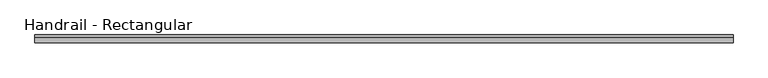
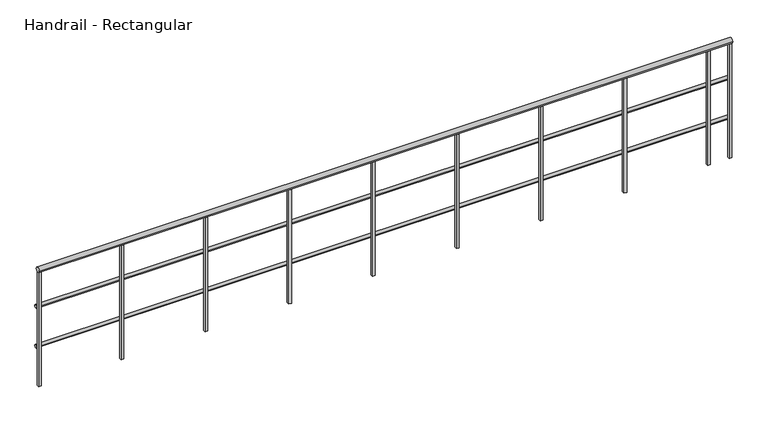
"""IFC4 building model written with IfcOpenShell, lengths in millimetres: railing geometry, Handrail - Rectangular."""

from ifc_helpers import new_model, si_unit, point, frame, frame_2d, origin, place, context, project, spatial, polyline, circle_curve, trimmed, segment, composite_curve, outline, extrude, source, transform, mapped, element, save


def handrail_rectangular_d1ca25f8(model_context):
    return source(origin(), model_context, "Body", "SweptSolid", [
        extrude(outline(composite_curve([segment(trimmed(circle_curve(frame_2d((11970.2316867, 9740.9)), 12.7), [point((11982.9316867, 9740.9))], [point((11957.5316867, 9740.9))], False, "CARTESIAN"), True, "CONTINUOUS"), segment(trimmed(circle_curve(frame_2d((11970.2316867, 9740.9)), 12.7), [point((11957.5316867, 9740.9))], [point((11982.9316867, 9740.9))], False, "CARTESIAN"), True, "CONTINUOUS")], self_intersect=False)), frame((-11164.8589563, 0.0, 0.0), z_axis=(1.0, 0.0, 0.0), x_axis=(0.0, 1.0, 0.0)), (0.0, 0.0, 1.0), 5041.9),
        extrude(outline(composite_curve([segment(trimmed(circle_curve(frame_2d((11970.2316867, 9436.1)), 12.7), [point((11982.9316867, 9436.1))], [point((11957.5316867, 9436.1))], False, "CARTESIAN"), True, "CONTINUOUS"), segment(trimmed(circle_curve(frame_2d((11970.2316867, 9436.1)), 12.7), [point((11957.5316867, 9436.1))], [point((11982.9316867, 9436.1))], False, "CARTESIAN"), True, "CONTINUOUS")], self_intersect=False)), frame((-11164.8589563, 0.0, 0.0), z_axis=(1.0, 0.0, 0.0), x_axis=(0.0, 1.0, 0.0)), (0.0, 0.0, 1.0), 5041.9),
        extrude(outline(composite_curve([segment(trimmed(circle_curve(frame_2d((11944.8316867, 10039.35)), 19.05), [point((11963.8816867, 10039.35))], [point((11925.7816867, 10039.35))], False, "CARTESIAN"), True, "CONTINUOUS"), segment(trimmed(circle_curve(frame_2d((11944.8316867, 10039.35)), 19.05), [point((11925.7816867, 10039.35))], [point((11963.8816867, 10039.35))], False, "CARTESIAN"), True, "CONTINUOUS")], self_intersect=False)), frame((-11164.8589563, 0.0, 0.0), z_axis=(1.0, 0.0, 0.0), x_axis=(0.0, 1.0, 0.0)), (0.0, 0.0, 1.0), 5041.9),
        extrude(outline(polyline([(-6297.5839563, 11935.3066867), (-6297.5839563, 11954.3566867), (-6278.5339563, 11954.3566867), (-6278.5339563, 11935.3066867), (-6297.5839563, 11935.3066867)])), frame((0.0, 0.0, 9144.0), z_axis=(0.0, 0.0, 1.0), x_axis=(1.0, 0.0, 0.0)), (0.0, 0.0, 1.0), 876.3),
        extrude(outline(polyline([(-6907.1839563, 11935.3066867), (-6907.1839563, 11954.3566867), (-6888.1339563, 11954.3566867), (-6888.1339563, 11935.3066867), (-6907.1839563, 11935.3066867)])), frame((0.0, 0.0, 9144.0), z_axis=(0.0, 0.0, 1.0), x_axis=(1.0, 0.0, 0.0)), (0.0, 0.0, 1.0), 876.3),
        extrude(outline(polyline([(-7516.7839563, 11935.3066867), (-7516.7839563, 11954.3566867), (-7497.7339563, 11954.3566867), (-7497.7339563, 11935.3066867), (-7516.7839563, 11935.3066867)])), frame((0.0, 0.0, 9144.0), z_axis=(0.0, 0.0, 1.0), x_axis=(1.0, 0.0, 0.0)), (0.0, 0.0, 1.0), 876.3),
        extrude(outline(polyline([(-8126.3839563, 11935.3066867), (-8126.3839563, 11954.3566867), (-8107.3339563, 11954.3566867), (-8107.3339563, 11935.3066867), (-8126.3839563, 11935.3066867)])), frame((0.0, 0.0, 9144.0), z_axis=(0.0, 0.0, 1.0), x_axis=(1.0, 0.0, 0.0)), (0.0, 0.0, 1.0), 876.3),
        extrude(outline(polyline([(-8735.9839563, 11935.3066867), (-8735.9839563, 11954.3566867), (-8716.9339563, 11954.3566867), (-8716.9339563, 11935.3066867), (-8735.9839563, 11935.3066867)])), frame((0.0, 0.0, 9144.0), z_axis=(0.0, 0.0, 1.0), x_axis=(1.0, 0.0, 0.0)), (0.0, 0.0, 1.0), 876.3),
        extrude(outline(polyline([(-9345.5839563, 11935.3066867), (-9345.5839563, 11954.3566867), (-9326.5339563, 11954.3566867), (-9326.5339563, 11935.3066867), (-9345.5839563, 11935.3066867)])), frame((0.0, 0.0, 9144.0), z_axis=(0.0, 0.0, 1.0), x_axis=(1.0, 0.0, 0.0)), (0.0, 0.0, 1.0), 876.3),
        extrude(outline(polyline([(-9955.1839563, 11935.3066867), (-9955.1839563, 11954.3566867), (-9936.1339563, 11954.3566867), (-9936.1339563, 11935.3066867), (-9955.1839563, 11935.3066867)])), frame((0.0, 0.0, 9144.0), z_axis=(0.0, 0.0, 1.0), x_axis=(1.0, 0.0, 0.0)), (0.0, 0.0, 1.0), 876.3),
        extrude(outline(polyline([(-10564.7839563, 11935.3066867), (-10564.7839563, 11954.3566867), (-10545.7339563, 11954.3566867), (-10545.7339563, 11935.3066867), (-10564.7839563, 11935.3066867)])), frame((0.0, 0.0, 9144.0), z_axis=(0.0, 0.0, 1.0), x_axis=(1.0, 0.0, 0.0)), (0.0, 0.0, 1.0), 876.3),
        extrude(outline(polyline([(-6142.0089563, 11935.3066867), (-6142.0089563, 11954.3566867), (-6122.9589563, 11954.3566867), (-6122.9589563, 11935.3066867), (-6142.0089563, 11935.3066867)])), frame((0.0, 0.0, 9144.0), z_axis=(0.0, 0.0, 1.0), x_axis=(1.0, 0.0, 0.0)), (0.0, 0.0, 1.0), 876.3),
        extrude(outline(polyline([(-11164.8589563, 11935.3066867), (-11164.8589563, 11954.3566867), (-11145.8089563, 11954.3566867), (-11145.8089563, 11935.3066867), (-11164.8589563, 11935.3066867)])), frame((0.0, 0.0, 9144.0), z_axis=(0.0, 0.0, 1.0), x_axis=(1.0, 0.0, 0.0)), (0.0, 0.0, 1.0), 876.3),
    ])


if __name__ == "__main__":
    model = new_model("IFC4")
    model_context = context("Model", 3, world=origin())
    ifc_project = project(units=[si_unit("LENGTHUNIT", "METRE", prefix="MILLI")], contexts=[model_context])
    site = spatial("IfcSite", under=ifc_project)
    building = spatial("IfcBuilding", under=site)
    placement = place(None, origin())
    handrail_rectangular_shape = handrail_rectangular_d1ca25f8(model_context)
    element("IfcRailing", 1, ObjectType="Handrail - Rectangular", at=placement, inside=building, context=model_context, shape_type="MappedRepresentation", body=[
        mapped(handrail_rectangular_shape, transform((0.0, 0.0, 0.0), x_axis=(1.0, 0.0, 0.0), y_axis=(0.0, 1.0, 0.0), z_axis=(0.0, 0.0, 1.0))),
    ])
    save(model, "model.ifc")
